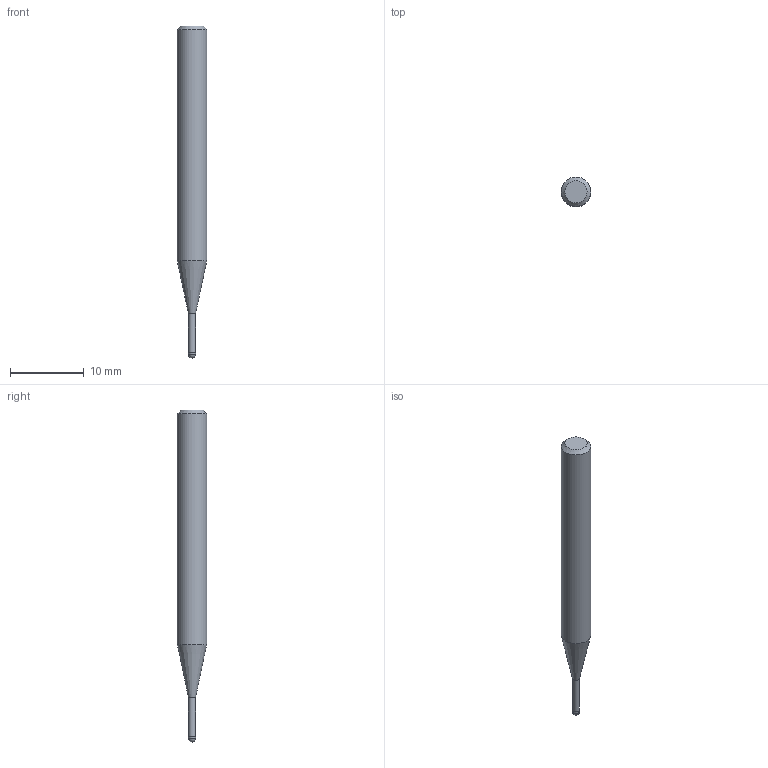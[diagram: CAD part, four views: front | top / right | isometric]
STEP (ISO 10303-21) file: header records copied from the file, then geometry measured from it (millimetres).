
FILE_DESCRIPTION((''),'2;1');
FILE_NAME('C:\Users\nsx150\AppData\Local\Temp\Mastercam 2021\AP8FW4WOPM\TEMP.step','2024-10-16T18:40:40',(''),(''),'STEP Write','Mastercam 2021 ... CNC Software, Inc.','');
FILE_SCHEMA(('AUTOMOTIVE_DESIGN'));
Length unit declared in the file: millimetre
Products named in the file (1): None
Bounding box: 4 x 4 x 45 mm (x, y, z)
Volume: 441.6 mm3; surface area: 485 mm2
Topology: 2 solids, 2 shells, 9 faces, 14 edges, 8 vertices
Faces by surface type: plane 3, cylinder 3, cone 2, sphere 1
Full cylindrical faces by diameter (mm): 0.95 x1, 1 x1, 4 x1
Entity records: 211 total; most frequent: DIRECTION 36, CARTESIAN_POINT 25, AXIS2_PLACEMENT_3D 18, ORIENTED_EDGE 14, EDGE_LOOP 14, STYLED_ITEM 12, ADVANCED_FACE 9, FACE_BOUND 8
